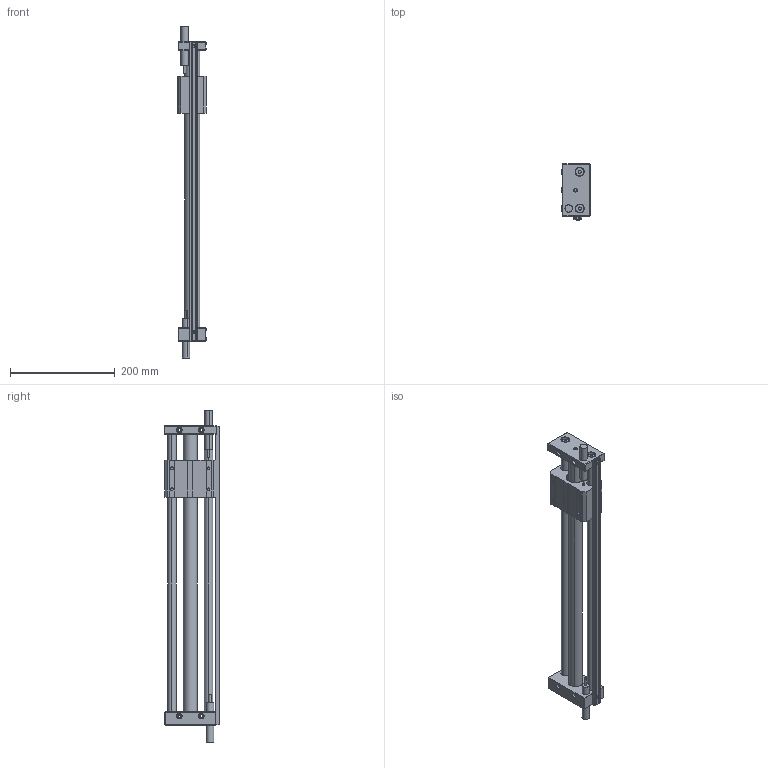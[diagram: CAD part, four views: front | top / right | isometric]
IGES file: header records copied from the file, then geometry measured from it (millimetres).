
Start section: SolidWorks IGES file using analytic representation for surfaces
Global section: file name: D:\Documents de SGA\Pieces 2D et 3D\GRU\iges\GRU 25.450.IGS; native system: SolidWorks 2010; preprocessor: SolidWorks 2010; author: SGA; date: 111216.111809; units: millimetre
Bounding box: 54 x 106.47 x 632.66 mm (x, y, z)
Surface area: 231283.1 mm2 (no closed solid volume)
Topology: 0 solids, 0 shells, 294 faces, 4396 edges, 4396 vertices
Faces by surface type: revolution 158, bspline 136
